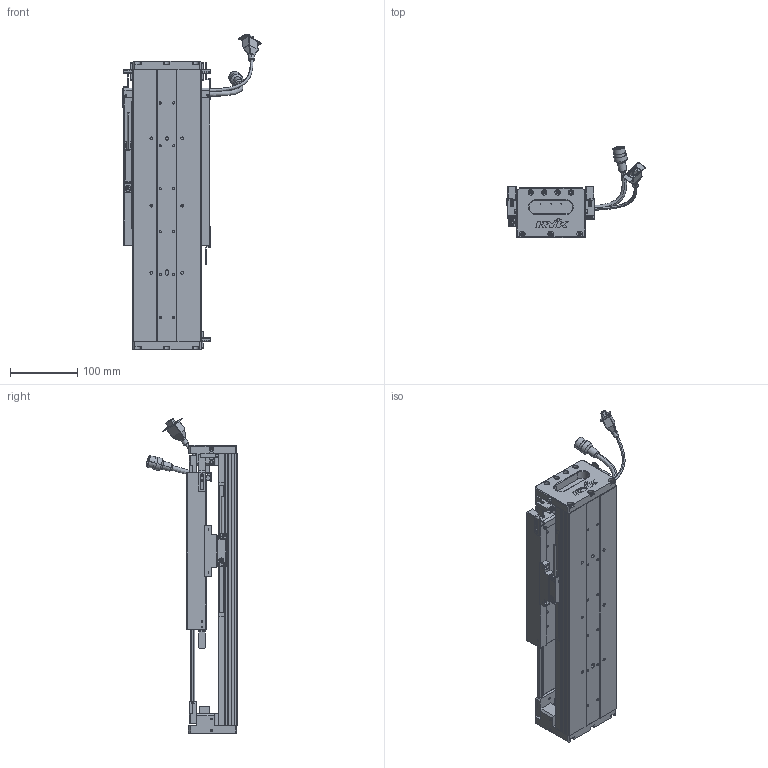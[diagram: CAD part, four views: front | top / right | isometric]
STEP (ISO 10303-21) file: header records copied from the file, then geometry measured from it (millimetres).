
FILE_DESCRIPTION (( 'STEP AP203' ), '1' );
FILE_NAME ('Z3-RY100D-1-L500-B-K.SLDASM_0100.step', '2021-05-17T02:49:17', ( '盈信电脑' ), ( '东莞市道滘镇水果街19号' ), 'SwSTEP 2.0', 'SolidWorks 2016', '' );
FILE_SCHEMA (( 'CONFIG_CONTROL_DESIGN' ));
Length unit declared in the file: millimetre
Products named in the file (36): SHIELDPLATE; 榋妏寠巭燃_暯_M2_2; SCREW-M1.6; 覜茼ん672; HOLDER0; SEAL; Z-RY100D詩湍狟揤裔; 080黍杅芛假蚾釱21遴; PSLH080_PSLF2; SCREW-M1.6-1; SCALE; SCALE-Part-2; LABEL; Z3-RY100D-1-L500-B-K.SLDASM_0100; COVER-Part-1; 140雄赽晤鎢ん堤盄; SCREW-M1.6-2; Z-RY100D覜茼んえ; SCREW-M1.7-1; SCREW-M1.7; Z3-RY100铝滑块（21款）; LABEL-Part-1; HARNESS-Part-2; SEAL-Part-1; Z3-RY100D-500-倰第菁釱_0100; Z-RY100D詩湍奻揤裔; SCALE-Part-1; PBU_SHEET; HARNESS; COVER; 100-Z-臏賑輸盄裔(21遴); 140蚥薯蝶輸; Z3-RY100-L500詩湍90mm遵_0100; SCREW-M1.6-3; Z-100詩湍傷裔啣; HARNESS-Part-1
Assembly tree (43 placements, depth 4):
  Z3-RY100D-1-L500-B-K.SLDASM_0100
    Z3-RY100D-500-倰第菁釱_0100
    Z3-RY100铝滑块（21款）
    PSLH080_PSLF2
      SCALE
        SCALE-Part-1
        SCALE-Part-2
      HARNESS
        HARNESS-Part-1
        HARNESS-Part-2
      LABEL
        LABEL-Part-1
      COVER
        COVER-Part-1
      SEAL
        SEAL-Part-1
      榋妏寠巭燃_暯_M2_2
      SHIELDPLATE
      SCREW-M1.7
      SCREW-M1.7-1
      PBU_SHEET
      SCREW-M1.6
      SCREW-M1.6-1
      SCREW-M1.6-2
      SCREW-M1.6-3
      HOLDER0
    080黍杅芛假蚾釱21遴
    Z-100詩湍傷裔啣  x2
    140蚥薯蝶輸  x2
    覜茼ん672  x3
    Z-RY100D覜茼んえ  x3
    100-Z-臏賑輸盄裔(21遴)
    140雄赽晤鎢ん堤盄
    Z3-RY100-L500詩湍90mm遵_0100
    Z-RY100D詩湍狟揤裔  x2
    Z-RY100D詩湍奻揤裔  x2
Bounding box: 205.84 x 136.11 x 470.43 mm (x, y, z)
Volume: 1376078.8 mm3; surface area: 496496.9 mm2
Topology: 38 solids, 38 shells, 2397 faces, 6151 edges, 3868 vertices
Faces by surface type: plane 1091, cylinder 958, cone 226, torus 69, bspline 53
Entity records: 62721 total; most frequent: CARTESIAN_POINT 13265, DIRECTION 9817, ORIENTED_EDGE 9182, EDGE_CURVE 4591, AXIS2_PLACEMENT_3D 3556, VERTEX_POINT 2936, LINE 2705, VECTOR 2705
